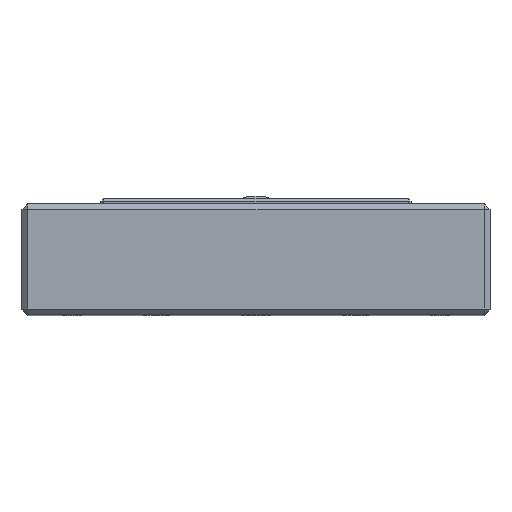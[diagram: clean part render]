
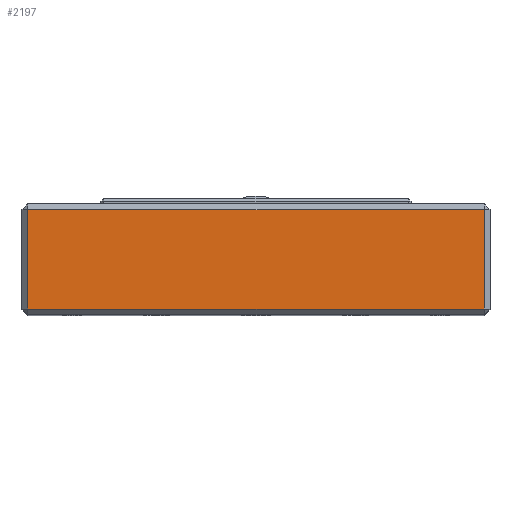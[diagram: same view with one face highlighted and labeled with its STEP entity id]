
A CAD part, top view. The second image highlights one B-rep face of the part: STEP entity #2197.
In plain terms, the highlighted planar face has unit normal (0, 0, -1).
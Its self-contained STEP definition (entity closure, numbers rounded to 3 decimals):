
#80 = CARTESIAN_POINT ( 'NONE',  ( -43.775, -6.783, 144. ) ) ;
#82 = LINE ( 'NONE', #993, #2509 ) ;
#195 = DIRECTION ( 'NONE',  ( 0., 1., 0. ) ) ;
#301 = CARTESIAN_POINT ( 'NONE',  ( 34.225, 1.717, 144. ) ) ;
#888 = VERTEX_POINT ( 'NONE', #4184 ) ;
#993 = CARTESIAN_POINT ( 'NONE',  ( -4.775, -6.783, 144. ) ) ;
#1288 = AXIS2_PLACEMENT_3D ( 'NONE', #3696, #6433, #5913 ) ;
#1477 = LINE ( 'NONE', #6160, #2086 ) ;
#1605 = DIRECTION ( 'NONE',  ( -1., 0., 0. ) ) ;
#1897 = EDGE_CURVE ( 'NONE', #3591, #3374, #1477, .T. ) ;
#1981 = VERTEX_POINT ( 'NONE', #5155 ) ;
#2086 = VECTOR ( 'NONE', #5509, 1000. ) ;
#2197 = ADVANCED_FACE ( 'NONE', ( #4734 ), #5400, .F. ) ;
#2509 = VECTOR ( 'NONE', #1605, 1000. ) ;
#2704 = VECTOR ( 'NONE', #195, 1000. ) ;
#2819 = VECTOR ( 'NONE', #6095, 1000. ) ;
#2962 = ORIENTED_EDGE ( 'NONE', *, *, #3190, .T. ) ;
#3190 = EDGE_CURVE ( 'NONE', #888, #3374, #82, .T. ) ;
#3374 = VERTEX_POINT ( 'NONE', #80 ) ;
#3591 = VERTEX_POINT ( 'NONE', #4185 ) ;
#3696 = CARTESIAN_POINT ( 'NONE',  ( -4.775, 1.717, 144. ) ) ;
#3801 = ORIENTED_EDGE ( 'NONE', *, *, #5365, .F. ) ;
#4184 = CARTESIAN_POINT ( 'NONE',  ( 34.225, -6.783, 144. ) ) ;
#4185 = CARTESIAN_POINT ( 'NONE',  ( -43.775, 10.217, 144. ) ) ;
#4249 = EDGE_LOOP ( 'NONE', ( #3801, #4516, #2962, #4601 ) ) ;
#4303 = CARTESIAN_POINT ( 'NONE',  ( -4.775, 10.217, 144. ) ) ;
#4337 = LINE ( 'NONE', #4303, #2819 ) ;
#4516 = ORIENTED_EDGE ( 'NONE', *, *, #4587, .F. ) ;
#4587 = EDGE_CURVE ( 'NONE', #888, #1981, #5007, .T. ) ;
#4601 = ORIENTED_EDGE ( 'NONE', *, *, #1897, .F. ) ;
#4734 = FACE_OUTER_BOUND ( 'NONE', #4249, .T. ) ;
#5007 = LINE ( 'NONE', #301, #2704 ) ;
#5155 = CARTESIAN_POINT ( 'NONE',  ( 34.225, 10.217, 144. ) ) ;
#5365 = EDGE_CURVE ( 'NONE', #1981, #3591, #4337, .T. ) ;
#5400 = PLANE ( 'NONE',  #1288 ) ;
#5509 = DIRECTION ( 'NONE',  ( 0., -1., 0. ) ) ;
#5913 = DIRECTION ( 'NONE',  ( 1., 0., 0. ) ) ;
#6095 = DIRECTION ( 'NONE',  ( -1., 0., 0. ) ) ;
#6160 = CARTESIAN_POINT ( 'NONE',  ( -43.775, 1.717, 144. ) ) ;
#6433 = DIRECTION ( 'NONE',  ( 0., 0., 1. ) ) ;
